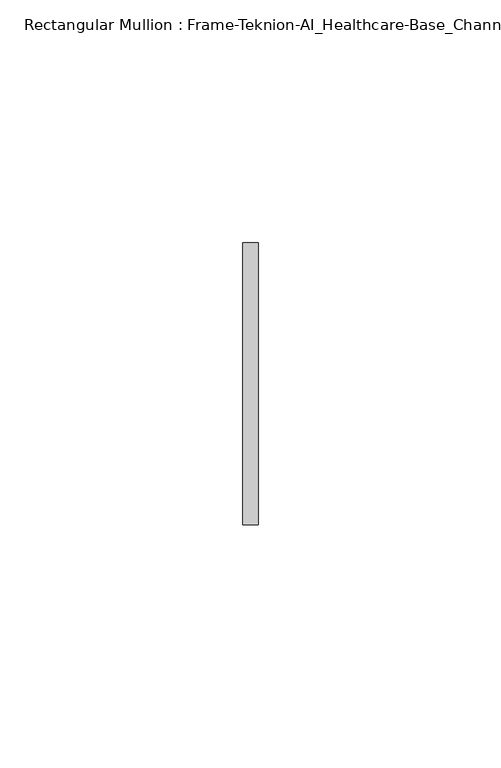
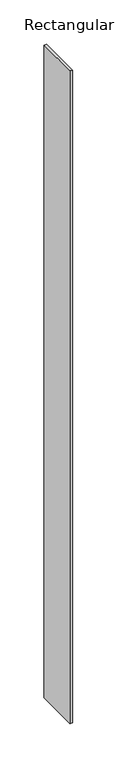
"""IFC4 building model written with IfcOpenShell, lengths in millimetres: member geometry, Rectangular Mullion : Frame-Teknion-AI_Healthcare-Base_Channel."""

import ifcopenshell
import ifcopenshell.guid

model = None  # the IFC model being written
_history = None  # IfcOwnerHistory: only IFC2X3 demands one
_inside = {}  # id of a spatial element -> (the spatial element, [elements in it])
_under = {}  # id of a project, library or spatial element -> (it, [spatial elements below it])
_declared = {}  # id of a project -> (the project, [libraries it declares])
_typed = {}  # id of a type object -> (the type object, [elements of that type])
_made_of = {}  # id of a material, layer set ... -> (it, [elements and type objects made of it])


def new_model(schema):
    """Start an empty IFC model of exactly this schema.

    Asked for "IFC4X3", IfcOpenShell would pick the latest addendum, in which some entities
    have other attributes; the version numbers below select the first issue.
    IFC2X3 requires an IfcOwnerHistory on every rooted entity: one is made here for all.
    """
    global model, _history
    if schema == "IFC4X3":
        model = ifcopenshell.file(schema_version=(4, 3, 0, 0))
    else:
        model = ifcopenshell.file(schema=schema)
    _inside.clear()
    _under.clear()
    _declared.clear()
    _typed.clear()
    _made_of.clear()
    _history = None
    if model.schema == "IFC2X3":
        org = make("IfcOrganization", Name="unknown")
        user = make(
            "IfcPersonAndOrganization",
            ThePerson=make("IfcPerson", FamilyName="unknown"),
            TheOrganization=org,
        )
        app = make(
            "IfcApplication",
            ApplicationDeveloper=org,
            Version="unknown",
            ApplicationFullName="unknown",
            ApplicationIdentifier="unknown",
        )
        _history = make(
            "IfcOwnerHistory",
            OwningUser=user,
            OwningApplication=app,
            ChangeAction="ADDED",
            CreationDate=0,
        )
    return model


def make(cls, **values):
    """One entity of the class cls with the attributes given. An attribute that is None is left unset."""
    return model.create_entity(
        cls, **{name: value for name, value in values.items() if value is not None}
    )


def rooted(cls, **values):
    """An entity with a GlobalId (a new one), such as an element, a storey or a relation."""
    return make(cls, GlobalId=ifcopenshell.guid.new(), OwnerHistory=_history, **values)


def si_unit(unit_type, name, prefix=None):
    """IfcSIUnit, for example si_unit("LENGTHUNIT", "METRE", prefix="MILLI")."""
    return make("IfcSIUnit", UnitType=unit_type, Prefix=prefix, Name=name)


def assignment(units):
    """IfcUnitAssignment: the units of a project."""
    return None if units is None else make("IfcUnitAssignment", Units=units)


def point(xyz):
    """IfcCartesianPoint."""
    return None if xyz is None else make("IfcCartesianPoint", Coordinates=xyz)


def direction(xyz):
    """IfcDirection."""
    return None if xyz is None else make("IfcDirection", DirectionRatios=xyz)


def frame(location, z_axis=None, x_axis=None):
    """IfcAxis2Placement3D, a coordinate frame: its origin and axes. An axis left out is left unset."""
    return make(
        "IfcAxis2Placement3D",
        Location=point(location),
        Axis=direction(z_axis),
        RefDirection=direction(x_axis),
    )


def origin():
    """The frame at (0, 0, 0) with its axes left unset."""
    return frame((0.0, 0.0, 0.0))


def place(relative_to, where):
    """IfcLocalPlacement: puts the frame where relative to a parent placement (None: the world)."""
    return make(
        "IfcLocalPlacement", PlacementRelTo=relative_to, RelativePlacement=where
    )


def context(
    kind, dimensions, precision=None, world=None, true_north=None, identifier=None
):
    """IfcGeometricRepresentationContext, for example the 3D "Model" context."""
    return make(
        "IfcGeometricRepresentationContext",
        ContextIdentifier=identifier,
        ContextType=kind,
        CoordinateSpaceDimension=dimensions,
        Precision=precision,
        WorldCoordinateSystem=world,
        TrueNorth=true_north,
    )


def project(units=None, contexts=None):
    """IfcProject with its units and contexts."""
    return rooted(
        "IfcProject",
        Name="project",
        RepresentationContexts=contexts,
        UnitsInContext=assignment(units),
    )


def spatial(cls, under=None, at=None, **own):
    """A site, building, storey or space (cls), placed at a placement, below another one or the project."""
    s = rooted(cls, ObjectPlacement=at, **own)
    if under is not None:
        _under.setdefault(under.id(), (under, []))[1].append(s)
    return s


def polyline(points):
    """IfcPolyline through the points."""
    return make("IfcPolyline", Points=[point(p) for p in points])


def outline(outer, holes=None, kind="AREA"):
    """IfcArbitraryClosedProfileDef: a profile drawn as a closed curve; with holes, ...WithVoids."""
    if holes is None:
        return make("IfcArbitraryClosedProfileDef", ProfileType=kind, OuterCurve=outer)
    return make(
        "IfcArbitraryProfileDefWithVoids",
        ProfileType=kind,
        OuterCurve=outer,
        InnerCurves=holes,
    )


def extrude(swept, where, along, depth):
    """IfcExtrudedAreaSolid: the profile swept, set in the frame where, extruded along a direction by depth."""
    return make(
        "IfcExtrudedAreaSolid",
        SweptArea=swept,
        Position=where,
        ExtrudedDirection=direction(along),
        Depth=depth,
    )


def shape(context_of_items, identifier, shape_type, items):
    """IfcShapeRepresentation: the items that make up one representation, for example the "Body"."""
    return make(
        "IfcShapeRepresentation",
        ContextOfItems=context_of_items,
        RepresentationIdentifier=identifier,
        RepresentationType=shape_type,
        Items=items,
    )


def source(mapping_origin, context_of_items, identifier, shape_type, items):
    """IfcRepresentationMap: a shape defined once, which mapped items show again and again."""
    return make(
        "IfcRepresentationMap",
        MappingOrigin=mapping_origin,
        MappedRepresentation=shape(context_of_items, identifier, shape_type, items),
    )


def transform(
    local_origin,
    x_axis=None,
    y_axis=None,
    z_axis=None,
    scale=None,
    scale2=None,
    scale3=None,
    uniform=True,
):
    """IfcCartesianTransformationOperator3D, or its non-uniform kind. x_axis, y_axis, z_axis: its Axis1, 2, 3."""
    if uniform:
        return make(
            "IfcCartesianTransformationOperator3D",
            Axis1=direction(x_axis),
            Axis2=direction(y_axis),
            LocalOrigin=point(local_origin),
            Scale=scale,
            Axis3=direction(z_axis),
        )
    return make(
        "IfcCartesianTransformationOperator3DnonUniform",
        Axis1=direction(x_axis),
        Axis2=direction(y_axis),
        LocalOrigin=point(local_origin),
        Scale=scale,
        Axis3=direction(z_axis),
        Scale2=scale2,
        Scale3=scale3,
    )


def mapped(mapping_source, mapping_target):
    """IfcMappedItem: shows the shape of a source again, moved by a transform."""
    return make(
        "IfcMappedItem", MappingSource=mapping_source, MappingTarget=mapping_target
    )


def made_of(thing, what):
    """Note that an element or type object is made of a material, layer set ...; save() writes the relation."""
    if what is not None:
        _made_of.setdefault(what.id(), (what, []))[1].append(thing)
    return thing


def element(
    cls,
    number,
    at=None,
    inside=None,
    cuts=None,
    type_object=None,
    material=None,
    context=None,
    identifier="Body",
    shape_type=None,
    held_by="IfcProductDefinitionShape",
    body=None,
    shapes=None,
    **own,
):
    """One element of the class cls, such as IfcWall. Its Tag is "e" and its number.

    at: its placement. inside: the storey or other place that contains it. cuts: it is an
    opening in that element (IfcRelVoidsElement). A single representation is given by context,
    identifier, shape_type and body (its items); several are given by shapes. held_by: the class
    of the entity that holds the representations. save() writes the other relations.
    """
    e = rooted(cls, Tag="e%d" % number, ObjectPlacement=at, **own)
    if body is not None:
        shapes = [shape(context, identifier, shape_type, body)]
    if shapes is not None:
        e.Representation = make(held_by, Representations=shapes)
    if inside is not None:
        _inside.setdefault(inside.id(), (inside, []))[1].append(e)
    if cuts is not None:
        rooted(
            "IfcRelVoidsElement", RelatingBuildingElement=cuts, RelatedOpeningElement=e
        )
    if type_object is not None:
        _typed.setdefault(type_object.id(), (type_object, []))[1].append(e)
    return made_of(e, material)


def aggregate(whole, parts):
    """IfcRelAggregates: a whole, such as a stair, and the parts it consists of."""
    return rooted("IfcRelAggregates", RelatingObject=whole, RelatedObjects=parts)


def save(model, path):
    """Write the relations noted so far, then the file.

    IfcRelAggregates (storeys below a building ...), IfcRelContainedInSpatialStructure (elements
    in a storey), IfcRelDefinesByType, IfcRelAssociatesMaterial and IfcRelDeclares: one each for
    every whole, place, type object, material and project.
    """
    for whole, parts in _under.values():
        aggregate(whole, parts)
    for where, things in _inside.values():
        rooted(
            "IfcRelContainedInSpatialStructure",
            RelatedElements=things,
            RelatingStructure=where,
        )
    for kind, things in _typed.values():
        rooted("IfcRelDefinesByType", RelatedObjects=things, RelatingType=kind)
    for what, things in _made_of.values():
        rooted("IfcRelAssociatesMaterial", RelatedObjects=things, RelatingMaterial=what)
    for by, libraries in _declared.values():
        rooted("IfcRelDeclares", RelatingContext=by, RelatedDefinitions=libraries)
    model.write(path)


def rectangular_mullion_frame_teknion_ai_healthcare_base_channel_ea2b8cd2(model_context):
    return source(origin(), model_context, "Body", "SweptSolid", [
        extrude(outline(polyline([(0.0, 29.0214844), (0.0, -29.0214844), (-3.175, -29.0214844), (-3.175, 29.0214844), (0.0, 29.0214844)])), frame((0.0, 0.0, -895.35), z_axis=(0.0, 0.0, 1.0), x_axis=(1.0, 0.0, 0.0)), (0.0, 0.0, 1.0), 895.35),
    ])


if __name__ == "__main__":
    model = new_model("IFC4")
    model_context = context("Model", 3, world=origin())
    ifc_project = project(units=[si_unit("LENGTHUNIT", "METRE", prefix="MILLI")], contexts=[model_context])
    site = spatial("IfcSite", under=ifc_project)
    building = spatial("IfcBuilding", under=site)
    placement = place(None, origin())
    rectangular_mullion_frame_teknion_ai_healthcare_base_channel_shape = rectangular_mullion_frame_teknion_ai_healthcare_base_channel_ea2b8cd2(model_context)
    element("IfcMember", 1, ObjectType="Rectangular Mullion : Frame-Teknion-AI_Healthcare-Base_Channel", at=placement, inside=building, context=model_context, shape_type="MappedRepresentation", body=[
        mapped(rectangular_mullion_frame_teknion_ai_healthcare_base_channel_shape, transform((0.0, 0.0, 0.0), x_axis=(1.0, 0.0, 0.0), y_axis=(0.0, 1.0, 0.0), z_axis=(0.0, 0.0, 1.0))),
    ])
    save(model, "model.ifc")
